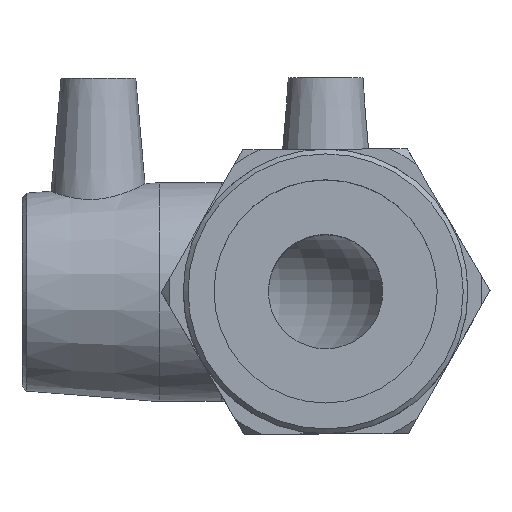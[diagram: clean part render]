
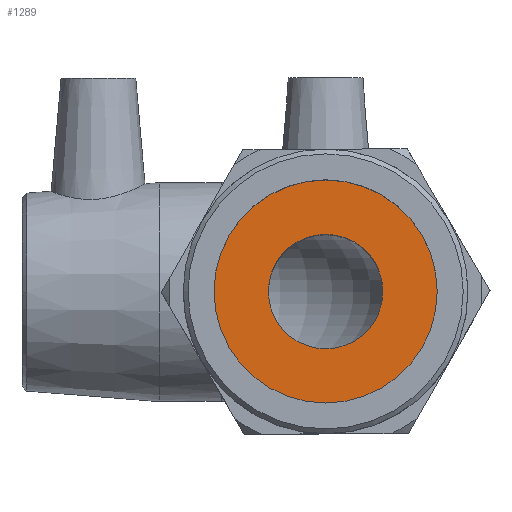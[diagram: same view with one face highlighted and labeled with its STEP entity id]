
A CAD part, top view. The second image highlights one B-rep face of the part: STEP entity #1289.
In plain terms, the highlighted planar face has unit normal (0, 0, 1).
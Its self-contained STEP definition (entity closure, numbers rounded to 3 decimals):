
#36=FACE_BOUND('',#276,.T.);
#75=PLANE('',#1440);
#182=FACE_OUTER_BOUND('',#275,.T.);
#275=EDGE_LOOP('',(#1086));
#276=EDGE_LOOP('',(#1087));
#392=CIRCLE('',#1439,11.5);
#393=CIRCLE('',#1441,22.423);
#617=VERTEX_POINT('',#2287);
#618=VERTEX_POINT('',#2290);
#782=EDGE_CURVE('',#617,#617,#392,.T.);
#783=EDGE_CURVE('',#618,#618,#393,.T.);
#1086=ORIENTED_EDGE('',*,*,#783,.F.);
#1087=ORIENTED_EDGE('',*,*,#782,.T.);
#1289=ADVANCED_FACE('',(#182,#36),#75,.T.);
#1439=AXIS2_PLACEMENT_3D('',#2288,#1777,#1778);
#1440=AXIS2_PLACEMENT_3D('',#2289,#1779,#1780);
#1441=AXIS2_PLACEMENT_3D('',#2291,#1781,#1782);
#1777=DIRECTION('center_axis',(0.,0.,-1.));
#1778=DIRECTION('ref_axis',(1.,0.,0.));
#1779=DIRECTION('center_axis',(0.,0.,1.));
#1780=DIRECTION('ref_axis',(1.,0.,0.));
#1781=DIRECTION('center_axis',(0.,0.,-1.));
#1782=DIRECTION('ref_axis',(1.,0.,0.));
#2287=CARTESIAN_POINT('',(-11.5,0.,66.));
#2288=CARTESIAN_POINT('Origin',(0.,0.,66.));
#2289=CARTESIAN_POINT('Origin',(-22.423,0.,66.));
#2290=CARTESIAN_POINT('',(-22.423,0.,66.));
#2291=CARTESIAN_POINT('Origin',(0.,0.,66.));
